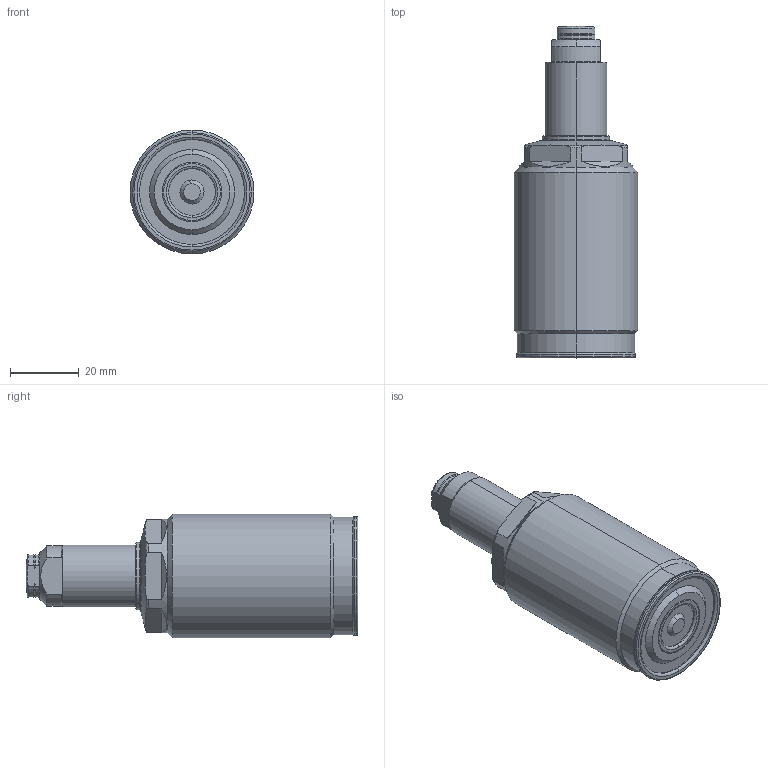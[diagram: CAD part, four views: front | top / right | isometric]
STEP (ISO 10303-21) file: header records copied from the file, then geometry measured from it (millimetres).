
FILE_DESCRIPTION(/* description */ (''),/* implementation_level */ '2;1');
FILE_NAME(/* name */ 'GSS04-Q.stp',/* time_stamp */ '2025-01-05T13:09:57+08:00',/* author */ (''),/* organization */ (''),/* preprocessor_version */ 'ST-DEVELOPER v16.7',/* originating_system */ 'SIEMENS PLM Software NX 12.0',/* authorisation */ '');
FILE_SCHEMA (('AUTOMOTIVE_DESIGN { 1 0 10303 214 3 1 1 1 }'));
Length unit declared in the file: millimetre
Products named in the file (8): AS0101573; TNC0403_ContactBolt_M105260; GSS04-Q-05; GSS04-Q-04; GSS04-Q-02; GSS04-Q-01; GSS04-Q-03; TNC1003-EQ_step
Assembly tree (7 placements, depth 3):
  TNC1003-EQ_step
    GSS04-Q-01
    GSS04-Q-02
    GSS04-Q-03
      TNC0403_ContactBolt_M105260
      AS0101573
    GSS04-Q-04
    GSS04-Q-05
Bounding box: 36 x 96.4 x 36 mm (x, y, z)
Volume: 62035.5 mm3; surface area: 14102.5 mm2
Topology: 6 solids, 6 shells, 153 faces, 340 edges, 207 vertices
Faces by surface type: torus 45, cylinder 41, plane 37, cone 28, sphere 2
Entity records: 4779 total; most frequent: CARTESIAN_POINT 1120, DIRECTION 817, ORIENTED_EDGE 680, AXIS2_PLACEMENT_3D 362, EDGE_CURVE 340, VERTEX_POINT 207, CIRCLE 201, EDGE_LOOP 167
